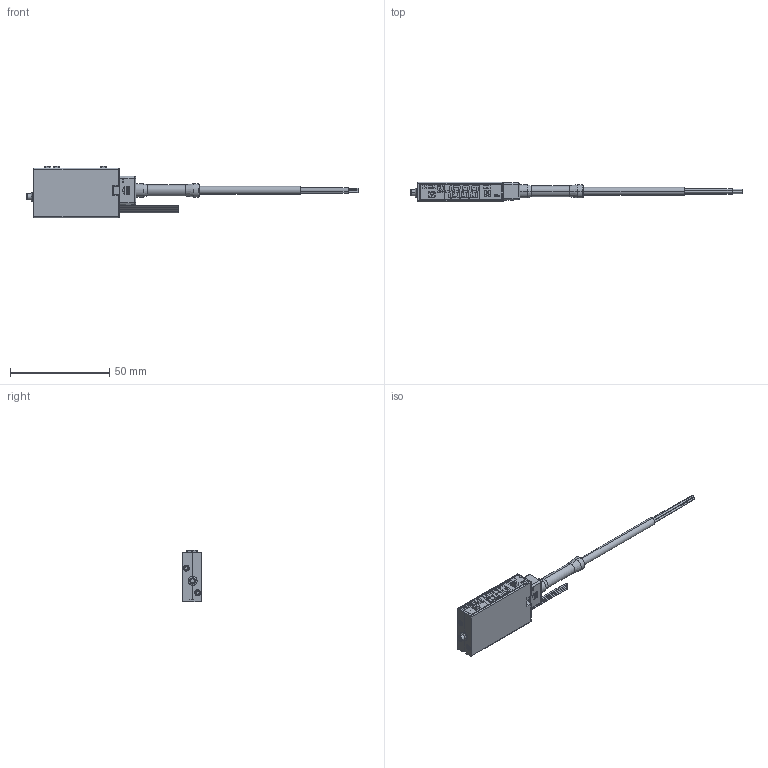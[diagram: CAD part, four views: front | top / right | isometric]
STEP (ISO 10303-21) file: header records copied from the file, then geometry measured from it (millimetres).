
FILE_DESCRIPTION (( 'STEP AP203' ), '1' );
FILE_NAME ('kp93-00.STEP', '2026-07-08T06:47:09', ( '' ), ( '' ), 'SwSTEP 2.0', 'SolidWorks 2022', '' );
FILE_SCHEMA (( 'CONFIG_CONTROL_DESIGN' ));
Length unit declared in the file: millimetre
Products named in the file (784): placementoutline-943_submodel-n.prt; placementoutline-719_1_2_submod.prt; submodel-kt03ms-020-08_con20p_3.asm; submodel-10kf_r0402_2835402849_.asm; submodel-gnd_pad-1x1mm_284295_1.asm; submodel-xc6216b521mr-g_sot25_3.asm; placementoutline-682_submodel-n.prt; submodel-nomodelforpart_1k-3096.asm; placementoutline-2163_submodel-.prt; placementoutline-557_submodel-n.prt; placementoutline-2421_submodel-.prt; placementoutline-1817_submodel-.prt; submodel-nomodelforpart_key_dow.asm; submodel-nomodelforpart_0_-2616.asm; submodel-330p_slash_50v_c0402_1.asm; submodel-nomodelforpart_100k-1_.asm; submodel-nomodelforpart_keyset_.asm; placementoutline-638_submodel-n.prt; placementoutline-623_1_2_submod.prt; placementoutline-3073_submodel-.prt; placementoutline-848_submodel-n.prt; submodel-nomodelforpart_rx_tp_1.asm; submodel-nomodelforpart_1ss400_.asm; placementoutline-2519_submodel-.prt; w_cn-0074-01-jsd-conn_asm_kp93-.prt; submodel-20k-1_pct__r0402_93452.asm; designrootmodel_1_2_3_asm_produ.asm; placementoutline-3009_submodel-.prt; submodel-nomodelforpart__24v__1.asm; placementoutline-1625_submodel-.prt; led-board-connector_pc-0528-01-.prt; productrootmodel_1_2_3_asm_527-.asm; submodel-nomodelforpart_1u-2230.asm; placementoutline-2283_submodel-.prt; submodel-nomodelforpart_5_-2850.asm; placementoutline-2315_submodel-.prt; submodel-ntph56_3749043770_pa_3.asm; placementoutline-3307_submodel-.prt; placementoutline-509_1_2_submod.prt; submodel-nomodelforpart_10-3520.asm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
Assembly tree (947 placements, depth 10):
  kp93-00
    kp93-00.asm
      kp93-20191202_2__kp93-20191202.asm
        sensor-board-pc-0533-01_asm_kp9.asm
          sensor-board-simst_sensor-board.prt
          sensor-board-kita_sensor-board-.prt
          fpcel-t-04-20r-nh_sensor-board-.prt
        pc-0527-01-main_board_asm_kp93-.asm
          pin_pc-0527-01-main_board_asm_k.prt
          527-new-kp93_asm_pc-0527-01-mai.asm
            productrootmodel_1_2_3_asm_527-.asm
              designrootmodel_1_2_3_asm_produ.asm
                submodel-p125l-04smt-01_fpcel_1.asm
                  submodel-nomodelforpart_p1-1400.asm
                submodel-2sa1020l_lpar_dtb143_1.asm
                  submodel-nomodelforpart_2sa10_1.asm
                submodel-smd2sc5658_vmt3_846547.asm
                  submodel-nomodelforpart_smd2s_1.asm
                submodel-udzs33b_umd2_3013333_1.asm  x4
                  submodel-nomodelforpart_udzs33b.asm
                submodel-dtd143ekt146_sot23_299.asm  x2
                  submodel-nomodelforpart_dtd143e.asm
                submodel-mmbt1616ag-g_sot23_299.asm
                  submodel-nomodelforpart_mmbt1_1.asm
                submodel-p125l-04smt-01_wa-1391.asm
                  submodel-nomodelforpart_p1-1370.asm
                submodel-1ss355_umd2_3013333104.asm
                  submodel-nomodelforpart_1ss35_1.asm
                submodel-udzs5_1b_sc-90_1001477.asm
                  submodel-nomodelforpart_udzs5_2.asm
                submodel-con5_sip5-2_13881932_1.asm
                  submodel-nomodelforpart_con5__1.asm
                submodel-dtc143eg_lpar_dtc-1575.asm  x3
                  submodel-nomodelforpart_dt-1562.asm
                submodel-njm324v_tssop14-p0_6_1.asm
                  submodel-nomodelforpart_njm32_1.asm
                submodel-47pf_slash_50vnpo_c0_1.asm
                  submodel-nomodelforpart_47-1830.asm
                submodel-p125l-04smt-01_wa-1689.asm
                  submodel-nomodelforpart_p1-1676.asm
                submodel-command1_tp-30mil_3222.asm
                  submodel-nomodelforpart_co-1926.asm
                submodel-2sa1774g-r_lpar_2sa2_1.asm
                  submodel-nomodelforpart_2sa17_1.asm
                submodel-dtc143eg_lpar_dtc-1601.asm
                  submodel-nomodelforpart_dt-1588.asm
                submodel-tfz39v_tumd2_253652067.asm
                  submodel-nomodelforpart_tfz39_1.asm
                submodel-kt03ms-020-08_1011_2_1.asm
                  submodel-nomodelforpart_kt03m_3.asm
                submodel-xc6216b521mr-g_sot23_2.asm
                  submodel-nomodelforpart_xc621_3.asm
                submodel-rl78l12-48p_lqfp48-090.asm
                  submodel-nomodelforpart_rl78l_1.asm
                submodel-_24vin_tp-30mil_3222_1.asm
                  submodel-nomodelforpart__24vi_1.asm
                submodel-key_up_tp-30mil_3222_1.asm
                  submodel-nomodelforpart_key_u_1.asm
                submodel-command2_tp-30mil_3222.asm
                  submodel-nomodelforpart_co-1882.asm
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Bounding box: 167.1 x 9.8 x 26.09 mm (x, y, z)
Volume: 12403 mm3; surface area: 30344.8 mm2
Topology: 560 solids, 565 shells, 6607 faces, 15738 edges, 10433 vertices
Faces by surface type: plane 5422, cylinder 1035, cone 71, bspline 52, torus 18, sphere 9
Entity records: 255354 total; most frequent: CARTESIAN_POINT 40176, DIRECTION 27131, ORIENTED_EDGE 25426, EDGE_CURVE 12717, LINE 10447, VECTOR 10447, VERTEX_POINT 8424, AXIS2_PLACEMENT_3D 8342
